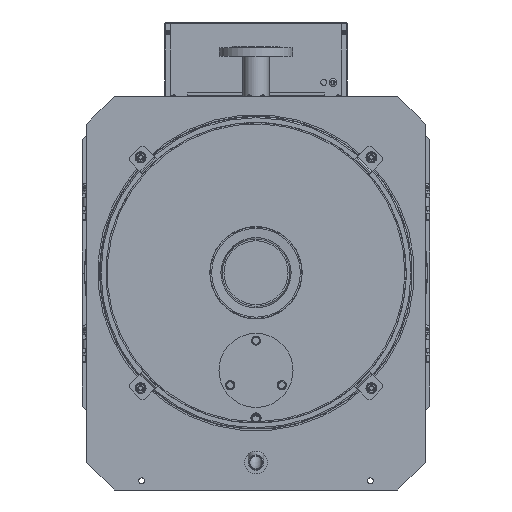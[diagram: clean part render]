
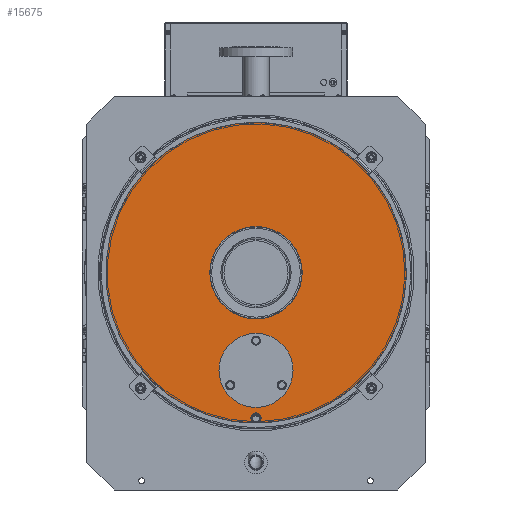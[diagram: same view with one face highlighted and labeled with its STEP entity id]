
A CAD part, left-side view. The second image highlights one B-rep face of the part: STEP entity #15675.
In plain terms, the highlighted planar face has unit normal (-1, 0, 0).
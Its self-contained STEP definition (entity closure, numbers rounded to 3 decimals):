
#15675=ADVANCED_FACE('',(#59498,#59500,#59502),#59504,.T.);
#59498=FACE_BOUND('',#59499,.T.);
#59499=EDGE_LOOP('',(#81040,#81041,#81042,#81043,#81044));
#59500=FACE_BOUND('',#59501,.T.);
#59501=EDGE_LOOP('',(#81045));
#59502=FACE_BOUND('',#59503,.T.);
#59503=EDGE_LOOP('',(#81046));
#59504=PLANE('',#59505);
#59505=AXIS2_PLACEMENT_3D('',#59506,#59507,#59508);
#59506=CARTESIAN_POINT('',(-905.,0.,0.));
#59507=DIRECTION('',(-1.,0.,0.));
#59508=DIRECTION('',(0.,-1.,0.));
#81040=ORIENTED_EDGE('',*,*,#91790,.T.);
#81041=ORIENTED_EDGE('',*,*,#91576,.T.);
#81042=ORIENTED_EDGE('',*,*,#91575,.T.);
#81043=ORIENTED_EDGE('',*,*,#91791,.T.);
#81044=ORIENTED_EDGE('',*,*,#91792,.T.);
#81045=ORIENTED_EDGE('',*,*,#91793,.F.);
#81046=ORIENTED_EDGE('',*,*,#91794,.T.);
#91575=EDGE_CURVE('',#101712,#101710,#101713,.T.);
#91576=EDGE_CURVE('',#101714,#101712,#101715,.T.);
#91790=EDGE_CURVE('',#102060,#101714,#102061,.F.);
#91791=EDGE_CURVE('',#101710,#102062,#102063,.F.);
#91792=EDGE_CURVE('',#102062,#102060,#102064,.F.);
#91793=EDGE_CURVE('',#102065,#102065,#102066,.T.);
#91794=EDGE_CURVE('',#102067,#102067,#102068,.F.);
#101710=VERTEX_POINT('',#138235);
#101712=VERTEX_POINT('',#138239);
#101713=CIRCLE('',#138240,328.5);
#101714=VERTEX_POINT('',#138244);
#101715=CIRCLE('',#138245,328.5);
#102060=VERTEX_POINT('',#139160);
#102061=LINE('',#139161,#139162);
#102062=VERTEX_POINT('',#139164);
#102063=LINE('',#139165,#139166);
#102064=CIRCLE('',#139168,11.);
#102065=VERTEX_POINT('',#139172);
#102066=CIRCLE('',#139173,81.);
#102067=VERTEX_POINT('',#139177);
#102068=CIRCLE('',#139178,101.);
#138235=CARTESIAN_POINT('',(-905.,4.583,-328.468));
#138239=CARTESIAN_POINT('',(-905.,232.017,-232.552));
#138240=AXIS2_PLACEMENT_3D('',#138241,#138242,#138243);
#138241=CARTESIAN_POINT('',(-905.,0.,0.));
#138242=DIRECTION('',(-1.,0.,0.));
#138243=DIRECTION('',(0.,0.706,-0.708));
#138244=CARTESIAN_POINT('',(-905.,-4.583,-328.468));
#138245=AXIS2_PLACEMENT_3D('',#138246,#138247,#138248);
#138246=CARTESIAN_POINT('',(-905.,0.,0.));
#138247=DIRECTION('',(-1.,0.,0.));
#138248=DIRECTION('',(0.,-0.014,-1.));
#139160=CARTESIAN_POINT('',(-905.,-4.583,-327.5));
#139161=CARTESIAN_POINT('',(-905.,-4.583,-328.468));
#139162=VECTOR('',#139163,1.);
#139163=DIRECTION('',(0.,0.,1.));
#139164=CARTESIAN_POINT('',(-905.,4.583,-327.5));
#139165=CARTESIAN_POINT('',(-905.,4.583,-327.5));
#139166=VECTOR('',#139167,1.);
#139167=DIRECTION('',(0.,0.,-1.));
#139168=AXIS2_PLACEMENT_3D('',#139169,#139170,#139171);
#139169=CARTESIAN_POINT('',(-905.,0.,-317.5));
#139170=DIRECTION('',(-1.,0.,0.));
#139171=DIRECTION('',(0.,-0.417,-0.909));
#139172=CARTESIAN_POINT('',(-905.,-81.,-213.5));
#139173=AXIS2_PLACEMENT_3D('',#139174,#139175,#139176);
#139174=CARTESIAN_POINT('',(-905.,0.,-213.5));
#139175=DIRECTION('',(-1.,0.,0.));
#139176=DIRECTION('',(0.,-1.,0.));
#139177=CARTESIAN_POINT('',(-905.,-101.,0.));
#139178=AXIS2_PLACEMENT_3D('',#139179,#139180,#139181);
#139179=CARTESIAN_POINT('',(-905.,0.,0.));
#139180=DIRECTION('',(-1.,0.,0.));
#139181=DIRECTION('',(0.,-1.,0.));
